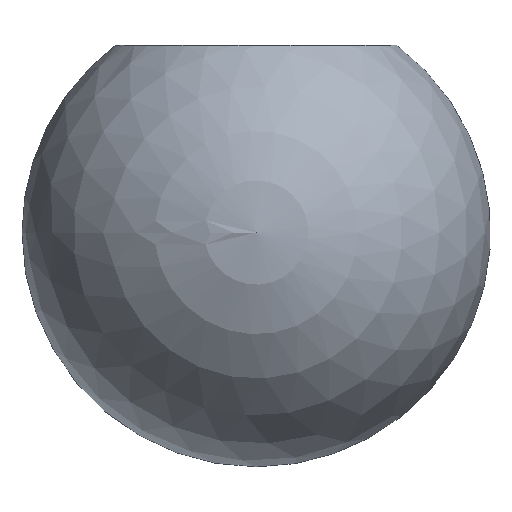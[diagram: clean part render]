
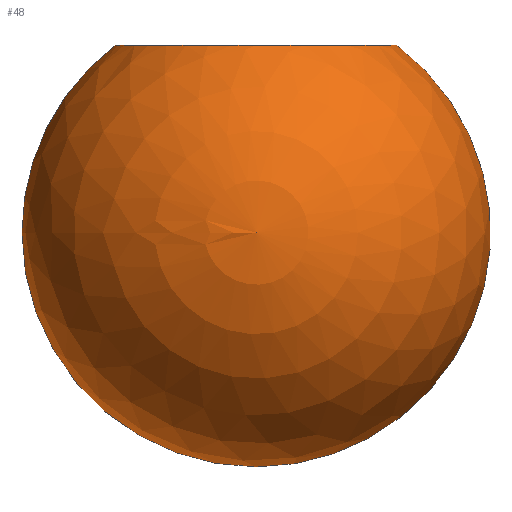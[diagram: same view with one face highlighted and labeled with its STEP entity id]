
A CAD part, left-side view. The second image highlights one B-rep face of the part: STEP entity #48.
In plain terms, the highlighted spherical face has radius 10 mm.
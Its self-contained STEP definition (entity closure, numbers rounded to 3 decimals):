
#27 = ORIENTED_EDGE ( 'NONE', *, *, #194, .F. ) ;
#31 = EDGE_LOOP ( 'NONE', ( #259, #121, #27 ) ) ;
#48 = ADVANCED_FACE ( 'NONE', ( #358 ), #362, .T. ) ;
#72 = CARTESIAN_POINT ( 'NONE',  ( 0., 0., -8. ) ) ;
#91 = AXIS2_PLACEMENT_3D ( 'NONE', #313, #437, #534 ) ;
#121 = ORIENTED_EDGE ( 'NONE', *, *, #123, .T. ) ;
#123 = EDGE_CURVE ( 'NONE', #296, #143, #232, .T. ) ;
#143 = VERTEX_POINT ( 'NONE', #298 ) ;
#172 = AXIS2_PLACEMENT_3D ( 'NONE', #72, #579, #245 ) ;
#194 = EDGE_CURVE ( 'NONE', #227, #143, #344, .T. ) ;
#227 = VERTEX_POINT ( 'NONE', #257 ) ;
#232 = CIRCLE ( 'NONE', #560, 10. ) ;
#245 = DIRECTION ( 'NONE',  ( 0., 0., -1. ) ) ;
#257 = CARTESIAN_POINT ( 'NONE',  ( 0., 6., 0. ) ) ;
#259 = ORIENTED_EDGE ( 'NONE', *, *, #430, .F. ) ;
#271 = DIRECTION ( 'NONE',  ( -1., 0., 0. ) ) ;
#296 = VERTEX_POINT ( 'NONE', #400 ) ;
#298 = CARTESIAN_POINT ( 'NONE',  ( 0., -6., 0. ) ) ;
#313 = CARTESIAN_POINT ( 'NONE',  ( 0., 0., 0. ) ) ;
#318 = CARTESIAN_POINT ( 'NONE',  ( 0., 0., -8. ) ) ;
#319 = AXIS2_PLACEMENT_3D ( 'NONE', #318, #271, #457 ) ;
#333 = DIRECTION ( 'NONE',  ( 0., -1., 0. ) ) ;
#342 = DIRECTION ( 'NONE',  ( -1., 0., 0. ) ) ;
#344 = CIRCLE ( 'NONE', #91, 6. ) ;
#358 = FACE_OUTER_BOUND ( 'NONE', #31, .T. ) ;
#362 = SPHERICAL_SURFACE ( 'NONE', #319, 10. ) ;
#400 = CARTESIAN_POINT ( 'NONE',  ( 0., 0., -18. ) ) ;
#420 = CIRCLE ( 'NONE', #172, 10. ) ;
#430 = EDGE_CURVE ( 'NONE', #296, #227, #420, .T. ) ;
#437 = DIRECTION ( 'NONE',  ( 0., 0., 1. ) ) ;
#457 = DIRECTION ( 'NONE',  ( 0., 1., 0. ) ) ;
#534 = DIRECTION ( 'NONE',  ( 1., 0., 0. ) ) ;
#560 = AXIS2_PLACEMENT_3D ( 'NONE', #572, #342, #333 ) ;
#572 = CARTESIAN_POINT ( 'NONE',  ( 0., 0., -8. ) ) ;
#579 = DIRECTION ( 'NONE',  ( 1., 0., 0. ) ) ;
